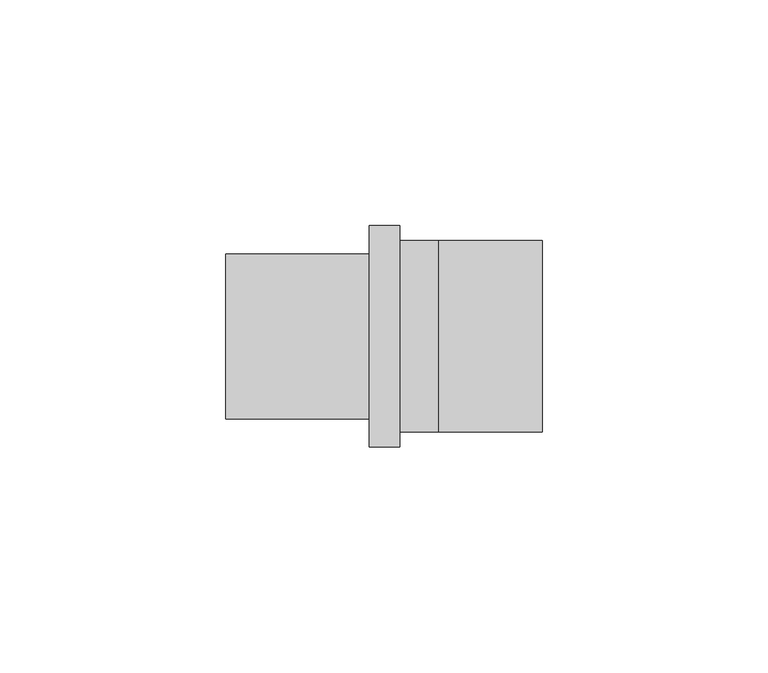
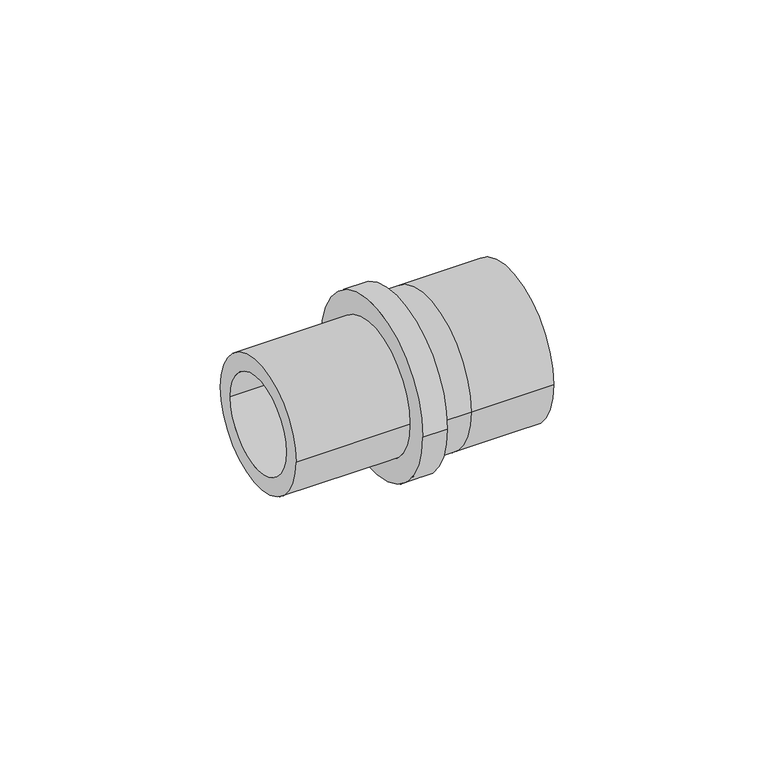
"""IFC4 building model written with IfcOpenShell, lengths in millimetres: pipe fitting geometry, Adapter with welding end : A welding LX."""

from ifc_helpers import new_model, si_unit, point, frame, origin, origin_2d, place, context, project, spatial, polyline, circle_curve, trimmed, segment, composite_curve, outline, extrude, source, transform, mapped, element, save
from ifc_brep_helpers import plane_surface, cylinder_surface, revolved_surface, advanced_brep


def pipe_fitting_2041175b(model_context):
    return source(origin(), model_context, "Body", "SolidModel", [
        advanced_brep(
        [(0.0, 21.2, 0.0), (0.0, -21.2, 0.0), (-8.5, -21.2, 0.0), (-8.5, 21.2, 0.0), (-8.5, 18.6, 0.0), (-8.5, -18.6, 0.0), (0.0, -18.6, 0.0), (0.0, 18.6, 0.0), (-47.0, 13.45, 0.0), (-47.0, -13.45, 0.0), (-8.5, -13.45, 0.0), (-8.5, 13.45, 0.0), (-15.3, 18.25, 0.0), (-15.3, -18.25, 0.0), (-47.0, -18.25, 0.0), (-47.0, 18.25, 0.0), (-8.5, 24.5, 0.0), (-8.5, -24.5, 0.0), (-15.3, -24.5, 0.0), (-15.3, 24.5, 0.0)],
        [
            (0, 1, circle_curve(frame((0.0, 0.0, 0.0), z_axis=(-1.0, 0.0, 0.0), x_axis=(0.0, -1.0, 0.0)), 21.2)),
            (1, 2),
            (2, 3, circle_curve(frame((-8.5, 0.0, 0.0), z_axis=(1.0, 0.0, 0.0), x_axis=(0.0, -1.0, 0.0)), 21.2)),
            (3, 0),
            (4, 5, circle_curve(frame((-8.5, 0.0, 0.0), z_axis=(-1.0, 0.0, 0.0), x_axis=(0.0, -1.0, 0.0)), 18.6)),
            (5, 6),
            (6, 7, circle_curve(frame((0.0, 0.0, 0.0), z_axis=(1.0, 0.0, 0.0), x_axis=(0.0, -1.0, 0.0)), 18.6)),
            (7, 4),
            (8, 9, circle_curve(frame((-47.0, 0.0, 0.0), z_axis=(-1.0, 0.0, 0.0), x_axis=(0.0, -1.0, 0.0)), 13.45)),
            (9, 10),
            (10, 11, circle_curve(frame((-8.5, 0.0, 0.0), z_axis=(1.0, 0.0, 0.0), x_axis=(0.0, -1.0, 0.0)), 13.45)),
            (11, 8),
            (12, 13, circle_curve(frame((-15.3, 0.0, 0.0), z_axis=(-1.0, 0.0, 0.0), x_axis=(0.0, -1.0, 0.0)), 18.25)),
            (13, 14),
            (14, 15, circle_curve(frame((-47.0, 0.0, 0.0), z_axis=(1.0, 0.0, 0.0), x_axis=(0.0, -1.0, 0.0)), 18.25)),
            (15, 12),
            (16, 17, circle_curve(frame((-8.5, 0.0, 0.0), z_axis=(-1.0, 0.0, 0.0), x_axis=(0.0, -1.0, 0.0)), 24.5)),
            (17, 18),
            (18, 19, circle_curve(frame((-15.3, 0.0, 0.0), z_axis=(1.0, 0.0, 0.0), x_axis=(0.0, -1.0, 0.0)), 24.5)),
            (19, 16),
            (16, 17, circle_curve(frame((-8.5, 0.0, 0.0), z_axis=(1.0, 0.0, 0.0), x_axis=(0.0, 1.0, 0.0)), 24.5)),
            (2, 3, circle_curve(frame((-8.5, 0.0, 0.0), z_axis=(-1.0, 0.0, 0.0), x_axis=(0.0, 1.0, 0.0)), 21.2)),
            (1, 0, circle_curve(frame((0.0, 0.0, 0.0), z_axis=(-1.0, 0.0, 0.0), x_axis=(0.0, 1.0, 0.0)), 21.2)),
            (6, 7, circle_curve(frame((0.0, 0.0, 0.0), z_axis=(-1.0, 0.0, 0.0), x_axis=(0.0, 1.0, 0.0)), 18.6)),
            (5, 4, circle_curve(frame((-8.5, 0.0, 0.0), z_axis=(-1.0, 0.0, 0.0), x_axis=(0.0, 1.0, 0.0)), 18.6)),
            (10, 11, circle_curve(frame((-8.5, 0.0, 0.0), z_axis=(-1.0, 0.0, 0.0), x_axis=(0.0, 1.0, 0.0)), 13.45)),
            (9, 8, circle_curve(frame((-47.0, 0.0, 0.0), z_axis=(-1.0, 0.0, 0.0), x_axis=(0.0, 1.0, 0.0)), 13.45)),
            (14, 15, circle_curve(frame((-47.0, 0.0, 0.0), z_axis=(-1.0, 0.0, 0.0), x_axis=(0.0, 1.0, 0.0)), 18.25)),
            (13, 12, circle_curve(frame((-15.3, 0.0, 0.0), z_axis=(-1.0, 0.0, 0.0), x_axis=(0.0, 1.0, 0.0)), 18.25)),
            (18, 19, circle_curve(frame((-15.3, 0.0, 0.0), z_axis=(-1.0, 0.0, 0.0), x_axis=(0.0, 1.0, 0.0)), 24.5)),
        ],
        [
            cylinder_surface(frame((0.0, 0.0, 0.0), z_axis=(1.0, 0.0, 0.0), x_axis=(0.0, -1.0, 0.0)), 21.2),
            revolved_surface(polyline([(0.0, -18.6, 0.0), (-8.5, -18.6, 0.0)]), (0.0, 0.0, 0.0), (1.0, 0.0, 0.0)),
            revolved_surface(polyline([(-8.5, -13.45, 0.0), (-47.0, -13.45, 0.0)]), (0.0, 0.0, 0.0), (1.0, 0.0, 0.0)),
            cylinder_surface(frame((0.0, 0.0, 0.0), z_axis=(1.0, 0.0, 0.0), x_axis=(0.0, -1.0, 0.0)), 18.25),
            cylinder_surface(frame((0.0, 0.0, 0.0), z_axis=(1.0, 0.0, 0.0), x_axis=(0.0, -1.0, 0.0)), 24.5),
            plane_surface(frame((-8.5, 0.0, 0.0), z_axis=(1.0, 0.0, 0.0), x_axis=(0.0, 1.0, 0.0))),
            cylinder_surface(frame((0.0, 0.0, 0.0), z_axis=(1.0, 0.0, 0.0), x_axis=(0.0, 1.0, 0.0)), 21.2),
            plane_surface(frame((0.0, 0.0, 0.0), z_axis=(1.0, 0.0, 0.0), x_axis=(0.0, 1.0, 0.0))),
            revolved_surface(polyline([(0.0, 18.6, 0.0), (-8.5, 18.6, 0.0)]), (0.0, 0.0, 0.0), (1.0, 0.0, 0.0)),
            revolved_surface(polyline([(-8.5, 13.45, 0.0), (-47.0, 13.45, 0.0)]), (0.0, 0.0, 0.0), (1.0, 0.0, 0.0)),
            plane_surface(frame((-47.0, 0.0, 0.0), z_axis=(-1.0, 0.0, 0.0), x_axis=(0.0, 1.0, 0.0))),
            cylinder_surface(frame((0.0, 0.0, 0.0), z_axis=(1.0, 0.0, 0.0), x_axis=(0.0, 1.0, 0.0)), 18.25),
            plane_surface(frame((-15.3, 0.0, 0.0), z_axis=(-1.0, 0.0, 0.0), x_axis=(0.0, 1.0, 0.0))),
            cylinder_surface(frame((0.0, 0.0, 0.0), z_axis=(1.0, 0.0, 0.0), x_axis=(0.0, 1.0, 0.0)), 24.5),
        ],
        [
            (0, [[1, 2, 3, 4]]),
            (1, [[5, 6, 7, 8]]),
            (2, [[9, 10, 11, 12]]),
            (3, [[13, 14, 15, 16]]),
            (4, [[17, 18, 19, 20]]),
            (5, [[21, -17], [22, -3]]),
            (6, [[23, -4, -22, -2]]),
            (7, [[-23, -1], [24, -7]]),
            (8, [[25, -8, -24, -6]]),
            (5, [[-25, -5], [26, -11]]),
            (9, [[27, -12, -26, -10]]),
            (10, [[28, -15], [-27, -9]]),
            (11, [[29, -16, -28, -14]]),
            (12, [[30, -19], [-29, -13]]),
            (13, [[-21, -20, -30, -18]]),
        ],
    ),
        extrude(outline(composite_curve([segment(trimmed(circle_curve(origin_2d(), 21.2), [point((-21.2, 0.0))], [point((21.2, 0.0))], False, "CARTESIAN"), True, "CONTINUOUS"), segment(trimmed(circle_curve(origin_2d(), 21.2), [point((21.2, 0.0))], [point((-21.2, 0.0))], False, "CARTESIAN"), True, "CONTINUOUS")], self_intersect=False), holes=[composite_curve([segment(trimmed(circle_curve(origin_2d(), 18.6), [point((18.6, 0.0))], [point((-18.6, 0.0))], True, "CARTESIAN"), True, "CONTINUOUS"), segment(trimmed(circle_curve(origin_2d(), 18.6), [point((-18.6, 0.0))], [point((18.6, 0.0))], True, "CARTESIAN"), True, "CONTINUOUS")], self_intersect=False)]), frame((0.0, 0.0, 0.0), z_axis=(1.0, 0.0, 0.0), x_axis=(0.0, 1.0, 0.0)), (0.0, 0.0, 1.0), 23.0),
    ])


if __name__ == "__main__":
    model = new_model("IFC4")
    model_context = context("Model", 3, world=origin())
    ifc_project = project(units=[si_unit("LENGTHUNIT", "METRE", prefix="MILLI")], contexts=[model_context])
    site = spatial("IfcSite", under=ifc_project)
    building = spatial("IfcBuilding", under=site)
    placement = place(None, origin())
    pipe_fitting_shape = pipe_fitting_2041175b(model_context)
    element("IfcPipeFitting", 1, ObjectType="Adapter with welding end : A welding LX", at=placement, inside=building, context=model_context, shape_type="MappedRepresentation", body=[
        mapped(pipe_fitting_shape, transform((0.0, 0.0, 0.0), x_axis=(1.0, 0.0, 0.0), y_axis=(0.0, 1.0, 0.0), z_axis=(0.0, 0.0, 1.0))),
    ])
    save(model, "model.ifc")
